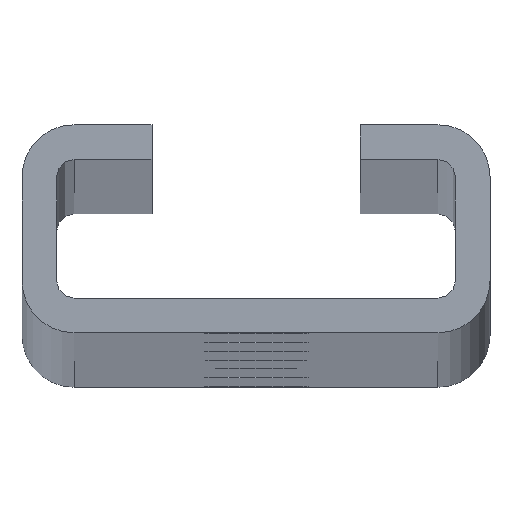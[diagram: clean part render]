
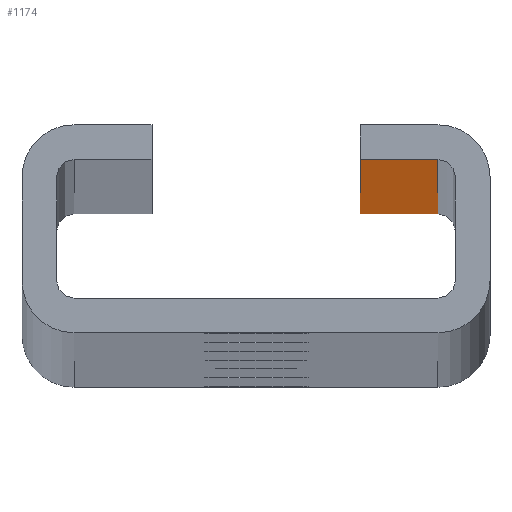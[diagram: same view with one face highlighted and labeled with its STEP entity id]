
A CAD part, top view. The second image highlights one B-rep face of the part: STEP entity #1174.
In plain terms, the highlighted planar face has unit normal (0, -1, 0).
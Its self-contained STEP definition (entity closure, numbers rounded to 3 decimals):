
#118 = AXIS2_PLACEMENT_3D ( 'NONE', #525, #747, #746 ) ;
#259 = ORIENTED_EDGE ( 'NONE', *, *, #886, .T. ) ;
#260 = ORIENTED_EDGE ( 'NONE', *, *, #900, .F. ) ;
#261 = ORIENTED_EDGE ( 'NONE', *, *, #899, .F. ) ;
#264 = ORIENTED_EDGE ( 'NONE', *, *, #901, .T. ) ;
#333 = VERTEX_POINT ( 'NONE', #1280 ) ;
#478 = PLANE ( 'NONE',  #118 ) ;
#525 = CARTESIAN_POINT ( 'NONE',  ( 24., 10., 1800. ) ) ;
#746 = DIRECTION ( 'NONE',  ( 0., 0., 1. ) ) ;
#747 = DIRECTION ( 'NONE',  ( 0., 1., 0. ) ) ;
#753 = EDGE_LOOP ( 'NONE', ( #264, #260, #261, #259 ) ) ;
#797 = VERTEX_POINT ( 'NONE', #1256 ) ;
#799 = VERTEX_POINT ( 'NONE', #1251 ) ;
#886 = EDGE_CURVE ( 'NONE', #799, #333, #952, .T. ) ;
#899 = EDGE_CURVE ( 'NONE', #799, #797, #968, .T. ) ;
#900 = EDGE_CURVE ( 'NONE', #797, #1211, #974, .T. ) ;
#901 = EDGE_CURVE ( 'NONE', #333, #1211, #976, .T. ) ;
#952 = LINE ( 'NONE', #1467, #955 ) ;
#955 = VECTOR ( 'NONE', #1466, 1000. ) ;
#968 = LINE ( 'NONE', #1414, #975 ) ;
#974 = LINE ( 'NONE', #1409, #977 ) ;
#975 = VECTOR ( 'NONE', #1423, 1000. ) ;
#976 = LINE ( 'NONE', #1407, #979 ) ;
#977 = VECTOR ( 'NONE', #1408, 1000. ) ;
#979 = VECTOR ( 'NONE', #1405, 1000. ) ;
#980 = FACE_OUTER_BOUND ( 'NONE', #753, .T. ) ;
#1150 = CARTESIAN_POINT ( 'NONE',  ( 24., 10., 0. ) ) ;
#1174 = ADVANCED_FACE ( 'NONE', ( #980 ), #478, .F. ) ;
#1211 = VERTEX_POINT ( 'NONE', #1150 ) ;
#1251 = CARTESIAN_POINT ( 'NONE',  ( 19.5, 10., 1800. ) ) ;
#1256 = CARTESIAN_POINT ( 'NONE',  ( 24., 10., 1800. ) ) ;
#1280 = CARTESIAN_POINT ( 'NONE',  ( 19.5, 10., 0. ) ) ;
#1405 = DIRECTION ( 'NONE',  ( 1., 0., 0. ) ) ;
#1407 = CARTESIAN_POINT ( 'NONE',  ( 24., 10., 0. ) ) ;
#1408 = DIRECTION ( 'NONE',  ( 0., 0., -1. ) ) ;
#1409 = CARTESIAN_POINT ( 'NONE',  ( 24., 10., 1800. ) ) ;
#1414 = CARTESIAN_POINT ( 'NONE',  ( 24., 10., 1800. ) ) ;
#1423 = DIRECTION ( 'NONE',  ( 1., 0., 0. ) ) ;
#1466 = DIRECTION ( 'NONE',  ( 0., 0., -1. ) ) ;
#1467 = CARTESIAN_POINT ( 'NONE',  ( 19.5, 10., 1800. ) ) ;
